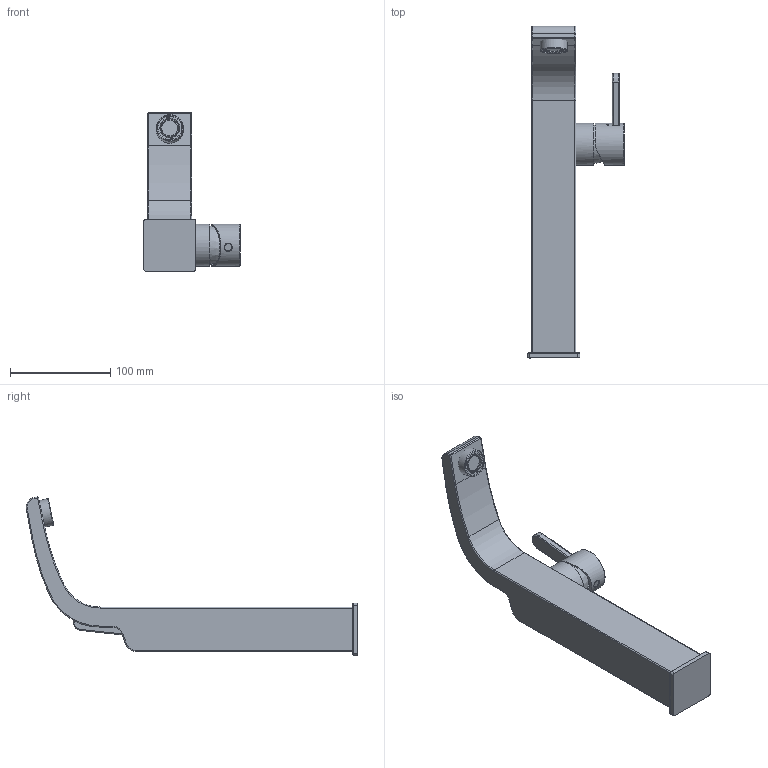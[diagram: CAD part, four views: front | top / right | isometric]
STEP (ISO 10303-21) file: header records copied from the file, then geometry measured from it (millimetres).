
FILE_DESCRIPTION(/* description */ (''),/* implementation_level */ '2;1');
FILE_NAME(/* name */ 'c:\worker\convert-fusion-r08\tmp\job-1\8\output\files\f6deaec0-aa17-47a9-b657-d542c2e1dd7c\8398afc1-f52c-4654-bbdd-66baf70e79a8.zip.stp',/* time_stamp */ '2019-11-26T14:38:53+00:00',/* author */ (''),/* organization */ (''),/* preprocessor_version */ 'ST-DEVELOPER v18',/* originating_system */ 'Autodesk Translation Framework v8.12.0.6',/* authorisation */ '');
FILE_SCHEMA (('AUTOMOTIVE_DESIGN { 1 0 10303 214 3 1 1 }'));
Length unit declared in the file: millimetre
Products named in the file (1): !DA5013
Bounding box: 96.2 x 330.72 x 157.93 mm (x, y, z)
Volume: 632219 mm3; surface area: 93191.3 mm2
Topology: 9 solids, 9 shells, 136 faces, 306 edges, 197 vertices
Faces by surface type: cylinder 48, plane 41, torus 25, bspline 18, cone 2, sphere 2
Full cylindrical faces by diameter (mm): 8 x1, 16 x1, 18 x1, 20.1 x1, 23.8 x1, 24 x1, 27 x1, 37 x1, 42 x2, 42.2 x1
Entity records: 14703 total; most frequent: CARTESIAN_POINT 11589, DIRECTION 680, ORIENTED_EDGE 612, EDGE_CURVE 306, AXIS2_PLACEMENT_3D 288, VERTEX_POINT 197, CIRCLE 168, EDGE_LOOP 147
